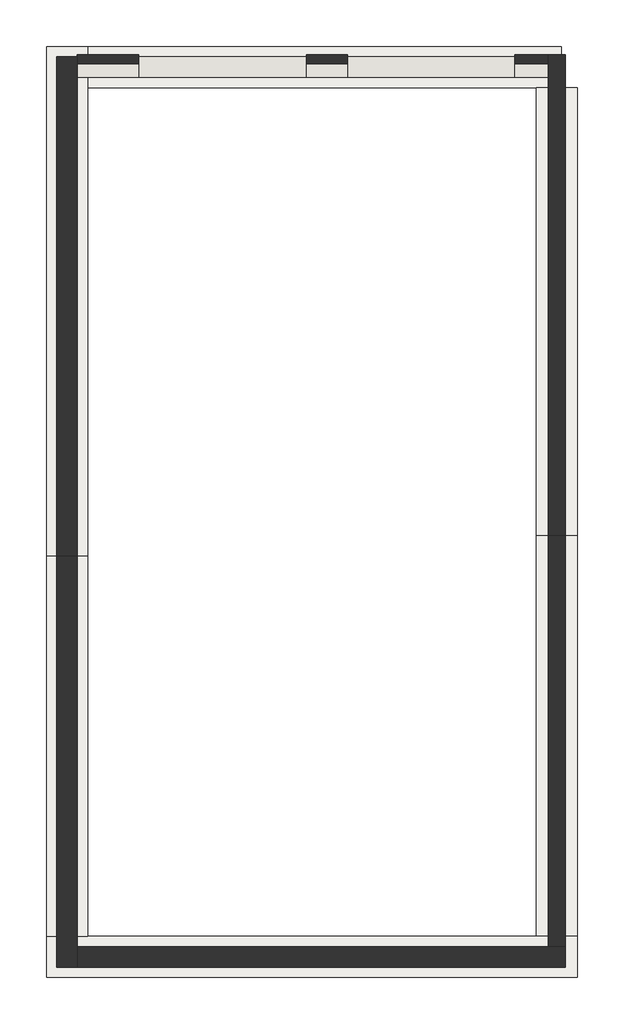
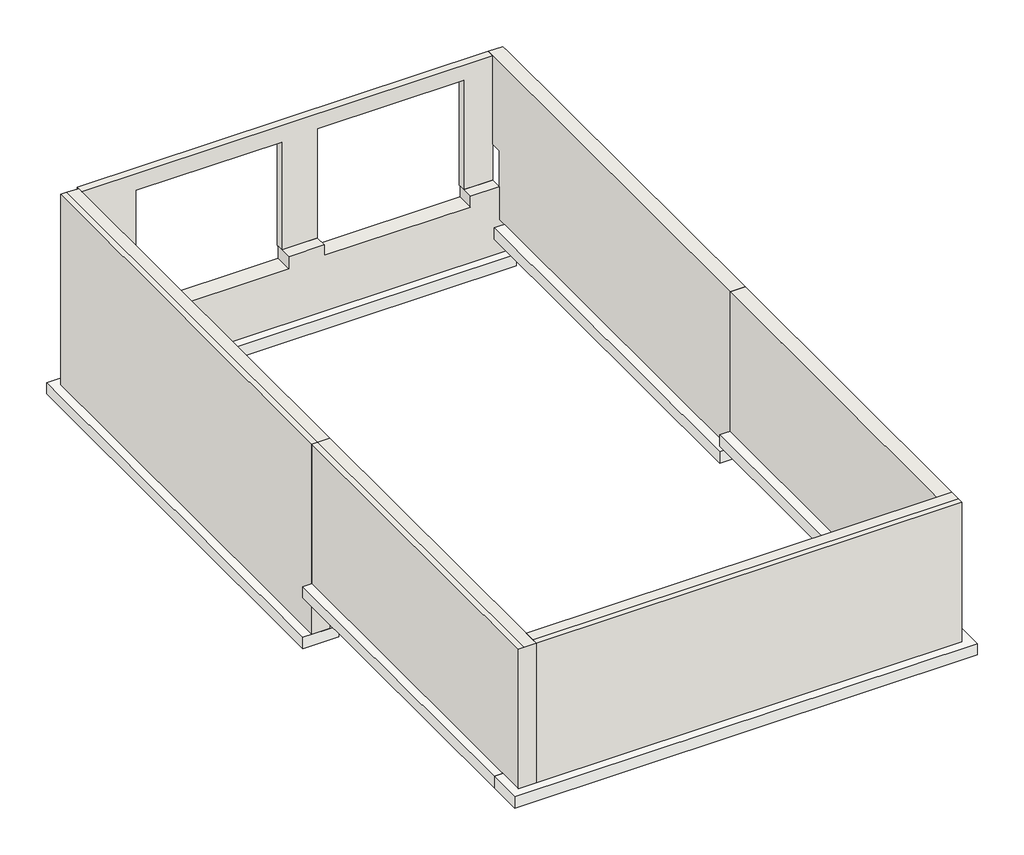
# One storey: 7 walls, 6 footings.
"""IFC4 building model written with IfcOpenShell, lengths in millimetres."""

import ifcopenshell
import ifcopenshell.guid

model = None  # the IFC model being written
_history = None  # IfcOwnerHistory: only IFC2X3 demands one
_inside = {}  # id of a spatial element -> (the spatial element, [elements in it])
_under = {}  # id of a project, library or spatial element -> (it, [spatial elements below it])
_declared = {}  # id of a project -> (the project, [libraries it declares])
_typed = {}  # id of a type object -> (the type object, [elements of that type])
_made_of = {}  # id of a material, layer set ... -> (it, [elements and type objects made of it])


def new_model(schema):
    """Start an empty IFC model of exactly this schema.

    Asked for "IFC4X3", IfcOpenShell would pick the latest addendum, in which some entities
    have other attributes; the version numbers below select the first issue.
    IFC2X3 requires an IfcOwnerHistory on every rooted entity: one is made here for all.
    """
    global model, _history
    if schema == "IFC4X3":
        model = ifcopenshell.file(schema_version=(4, 3, 0, 0))
    else:
        model = ifcopenshell.file(schema=schema)
    _inside.clear()
    _under.clear()
    _declared.clear()
    _typed.clear()
    _made_of.clear()
    _history = None
    if model.schema == "IFC2X3":
        org = make("IfcOrganization", Name="unknown")
        user = make(
            "IfcPersonAndOrganization",
            ThePerson=make("IfcPerson", FamilyName="unknown"),
            TheOrganization=org,
        )
        app = make(
            "IfcApplication",
            ApplicationDeveloper=org,
            Version="unknown",
            ApplicationFullName="unknown",
            ApplicationIdentifier="unknown",
        )
        _history = make(
            "IfcOwnerHistory",
            OwningUser=user,
            OwningApplication=app,
            ChangeAction="ADDED",
            CreationDate=0,
        )
    return model


def make(cls, **values):
    """One entity of the class cls with the attributes given. An attribute that is None is left unset."""
    return model.create_entity(
        cls, **{name: value for name, value in values.items() if value is not None}
    )


def rooted(cls, **values):
    """An entity with a GlobalId (a new one), such as an element, a storey or a relation."""
    return make(cls, GlobalId=ifcopenshell.guid.new(), OwnerHistory=_history, **values)


def si_unit(unit_type, name, prefix=None):
    """IfcSIUnit, for example si_unit("LENGTHUNIT", "METRE", prefix="MILLI")."""
    return make("IfcSIUnit", UnitType=unit_type, Prefix=prefix, Name=name)


def assignment(units):
    """IfcUnitAssignment: the units of a project."""
    return None if units is None else make("IfcUnitAssignment", Units=units)


def point(xyz):
    """IfcCartesianPoint."""
    return None if xyz is None else make("IfcCartesianPoint", Coordinates=xyz)


def direction(xyz):
    """IfcDirection."""
    return None if xyz is None else make("IfcDirection", DirectionRatios=xyz)


def frame(location, z_axis=None, x_axis=None):
    """IfcAxis2Placement3D, a coordinate frame: its origin and axes. An axis left out is left unset."""
    return make(
        "IfcAxis2Placement3D",
        Location=point(location),
        Axis=direction(z_axis),
        RefDirection=direction(x_axis),
    )


def origin():
    """The frame at (0, 0, 0) with its axes left unset."""
    return frame((0.0, 0.0, 0.0))


def place(relative_to, where):
    """IfcLocalPlacement: puts the frame where relative to a parent placement (None: the world)."""
    return make(
        "IfcLocalPlacement", PlacementRelTo=relative_to, RelativePlacement=where
    )


def context(
    kind, dimensions, precision=None, world=None, true_north=None, identifier=None
):
    """IfcGeometricRepresentationContext, for example the 3D "Model" context."""
    return make(
        "IfcGeometricRepresentationContext",
        ContextIdentifier=identifier,
        ContextType=kind,
        CoordinateSpaceDimension=dimensions,
        Precision=precision,
        WorldCoordinateSystem=world,
        TrueNorth=true_north,
    )


def project(units=None, contexts=None):
    """IfcProject with its units and contexts."""
    return rooted(
        "IfcProject",
        Name="project",
        RepresentationContexts=contexts,
        UnitsInContext=assignment(units),
    )


def spatial(cls, under=None, at=None, **own):
    """A site, building, storey or space (cls), placed at a placement, below another one or the project."""
    s = rooted(cls, ObjectPlacement=at, **own)
    if under is not None:
        _under.setdefault(under.id(), (under, []))[1].append(s)
    return s


def polyline(points):
    """IfcPolyline through the points."""
    return make("IfcPolyline", Points=[point(p) for p in points])


def outline(outer, holes=None, kind="AREA"):
    """IfcArbitraryClosedProfileDef: a profile drawn as a closed curve; with holes, ...WithVoids."""
    if holes is None:
        return make("IfcArbitraryClosedProfileDef", ProfileType=kind, OuterCurve=outer)
    return make(
        "IfcArbitraryProfileDefWithVoids",
        ProfileType=kind,
        OuterCurve=outer,
        InnerCurves=holes,
    )


def extrude(swept, where, along, depth):
    """IfcExtrudedAreaSolid: the profile swept, set in the frame where, extruded along a direction by depth."""
    return make(
        "IfcExtrudedAreaSolid",
        SweptArea=swept,
        Position=where,
        ExtrudedDirection=direction(along),
        Depth=depth,
    )


def faces_of(points, faces, orient=None, outer=None):
    """IfcFace entities. A face is a list of loops; a loop is a list of indices into points, from 0.

    orient and outer hold one flag for each loop. By default every Orientation is true, the
    first loop of a face is its IfcFaceOuterBound and the others are IfcFaceBound.
    """
    made = []
    for i, loops in enumerate(faces):
        bounds = []
        for j, loop in enumerate(loops):
            is_outer = j == 0 if outer is None else outer[i][j]
            bounds.append(
                make(
                    "IfcFaceOuterBound" if is_outer else "IfcFaceBound",
                    Bound=make("IfcPolyLoop", Polygon=[points[k] for k in loop]),
                    Orientation=True if orient is None else orient[i][j],
                )
            )
        made.append(make("IfcFace", Bounds=bounds))
    return made


def faceted_brep(points, faces, orient=None, outer=None, voids=None):
    """IfcFacetedBrep: a solid bounded by flat faces; with voids (closed shells), ...WithVoids."""
    shared = [point(p) for p in points]
    hull = make("IfcClosedShell", CfsFaces=faces_of(shared, faces, orient, outer))
    if voids is None:
        return make("IfcFacetedBrep", Outer=hull)
    return make(
        "IfcFacetedBrepWithVoids",
        Outer=hull,
        Voids=[
            make(cls, CfsFaces=faces_of(shared, fs, o, b)) for cls, fs, o, b in voids
        ],
    )


def shape(context_of_items, identifier, shape_type, items):
    """IfcShapeRepresentation: the items that make up one representation, for example the "Body"."""
    return make(
        "IfcShapeRepresentation",
        ContextOfItems=context_of_items,
        RepresentationIdentifier=identifier,
        RepresentationType=shape_type,
        Items=items,
    )


def made_of(thing, what):
    """Note that an element or type object is made of a material, layer set ...; save() writes the relation."""
    if what is not None:
        _made_of.setdefault(what.id(), (what, []))[1].append(thing)
    return thing


def element(
    cls,
    number,
    at=None,
    inside=None,
    cuts=None,
    type_object=None,
    material=None,
    context=None,
    identifier="Body",
    shape_type=None,
    held_by="IfcProductDefinitionShape",
    body=None,
    shapes=None,
    **own,
):
    """One element of the class cls, such as IfcWall. Its Tag is "e" and its number.

    at: its placement. inside: the storey or other place that contains it. cuts: it is an
    opening in that element (IfcRelVoidsElement). A single representation is given by context,
    identifier, shape_type and body (its items); several are given by shapes. held_by: the class
    of the entity that holds the representations. save() writes the other relations.
    """
    e = rooted(cls, Tag="e%d" % number, ObjectPlacement=at, **own)
    if body is not None:
        shapes = [shape(context, identifier, shape_type, body)]
    if shapes is not None:
        e.Representation = make(held_by, Representations=shapes)
    if inside is not None:
        _inside.setdefault(inside.id(), (inside, []))[1].append(e)
    if cuts is not None:
        rooted(
            "IfcRelVoidsElement", RelatingBuildingElement=cuts, RelatedOpeningElement=e
        )
    if type_object is not None:
        _typed.setdefault(type_object.id(), (type_object, []))[1].append(e)
    return made_of(e, material)


def aggregate(whole, parts):
    """IfcRelAggregates: a whole, such as a stair, and the parts it consists of."""
    return rooted("IfcRelAggregates", RelatingObject=whole, RelatedObjects=parts)


def save(model, path):
    """Write the relations noted so far, then the file.

    IfcRelAggregates (storeys below a building ...), IfcRelContainedInSpatialStructure (elements
    in a storey), IfcRelDefinesByType, IfcRelAssociatesMaterial and IfcRelDeclares: one each for
    every whole, place, type object, material and project.
    """
    for whole, parts in _under.values():
        aggregate(whole, parts)
    for where, things in _inside.values():
        rooted(
            "IfcRelContainedInSpatialStructure",
            RelatedElements=things,
            RelatingStructure=where,
        )
    for kind, things in _typed.values():
        rooted("IfcRelDefinesByType", RelatedObjects=things, RelatingType=kind)
    for what, things in _made_of.values():
        rooted("IfcRelAssociatesMaterial", RelatedObjects=things, RelatingMaterial=what)
    for by, libraries in _declared.values():
        rooted("IfcRelDeclares", RelatingContext=by, RelatedDefinitions=libraries)
    model.write(path)


model = new_model("IFC4")

# Units and contexts
model_context = context("Model", 3, world=origin())
ifc_project = project(units=[si_unit("LENGTHUNIT", "METRE", prefix="MILLI")], contexts=[model_context])

# Site, building, storey
site = spatial("IfcSite", under=ifc_project)
building = spatial("IfcBuilding", under=site)
storey = spatial("IfcBuildingStorey", under=building, Name="A - T.O. Footing", Elevation=-2876.55)

# Footings
placement = place(None, origin())
element("IfcFooting", 1, ObjectType="Footing - 24\" x 8\"", at=placement, inside=storey, context=model_context, shape_type="Brep", body=[
    faceted_brep([(-11056.4629486, -1258.5289462, -3790.95), (-11666.0629486, -1258.5289462, -3790.95), (-11666.0629486, -1258.5289462, -3994.15), (-11056.4629486, -1258.5289462, -3994.15), (-11666.0629486, 6310.6710538, -3790.95), (-11056.4629486, 5701.0710538, -3790.95), (-11056.4629486, 6310.6710538, -3790.95), (-11056.4629486, 6310.6710538, -3994.15), (-11056.4629486, 5701.0710538, -3994.15), (-11666.0629486, 6310.6710538, -3994.15)], [[[0, 1, 2, 3]], [[4, 1, 0, 5, 6]], [[7, 6, 5, 0, 3, 8]], [[9, 7, 8, 3, 2]], [[4, 9, 2, 1]], [[4, 6, 7, 9]]]),
])
element("IfcFooting", 2, ObjectType="Footing - 24\" x 8\"", at=placement, inside=storey, context=model_context, shape_type="Brep", body=[
    faceted_brep([(-11666.0629486, -7506.9289462, -2876.55), (-3779.3629486, -7506.9289462, -2876.55), (-3779.3629486, -6897.3289462, -2876.55), (-4388.9629486, -6897.3289462, -2876.55), (-11056.4629486, -6897.3289462, -2876.55), (-11666.0629486, -6897.3289462, -2876.55), (-11666.0629486, -6897.3289462, -3079.75), (-3779.3629486, -6897.3289462, -3079.75), (-4388.9629486, -6897.3289462, -3079.75), (-11056.4629486, -6897.3289462, -3079.75), (-11666.0629486, -7506.9289462, -3079.75), (-3779.3629486, -7506.9289462, -3079.75)], [[[0, 1, 2, 3, 4, 5]], [[6, 5, 4, 3, 2, 7, 8, 9]], [[10, 6, 9, 8, 7, 11]], [[0, 10, 11, 1]], [[0, 5, 6, 10]], [[2, 1, 11, 7]]]),
])
element("IfcFooting", 3, ObjectType="Footing - 24\" x 8\"", at=placement, inside=storey, context=model_context, shape_type="SweptSolid", body=[
    extrude(outline(polyline([(-4388.9629486, -953.7289462), (-3779.3629486, -953.7289462), (-3779.3629486, -6897.3289462), (-4388.9629486, -6897.3289462), (-4388.9629486, -953.7289462)])), frame((0.0, 0.0, -3079.75), z_axis=(0.0, 0.0, 1.0), x_axis=(1.0, 0.0, 0.0)), (0.0, 0.0, 1.0), 203.2),
])
element("IfcFooting", 4, ObjectType="Footing - 24\" x 8\"", at=placement, inside=storey, context=model_context, shape_type="SweptSolid", body=[
    extrude(outline(polyline([(-4017.4879486, 6310.6710538), (-4017.4879486, 5701.0710538), (-11056.4629486, 5701.0710538), (-11056.4629486, 6310.6710538), (-4017.4879486, 6310.6710538)])), frame((0.0, 0.0, -3994.15), z_axis=(0.0, 0.0, 1.0), x_axis=(1.0, 0.0, 0.0)), (0.0, 0.0, 1.0), 203.2),
])
element("IfcFooting", 5, ObjectType="Footing - 24\" x 8\"", at=placement, inside=storey, context=model_context, shape_type="SweptSolid", body=[
    extrude(outline(polyline([(-3779.3629486, -953.7289462), (-4388.9629486, -953.7289462), (-4388.9629486, 5701.0710538), (-3779.3629486, 5701.0710538), (-3779.3629486, -953.7289462)])), frame((0.0, 0.0, -3384.55), z_axis=(0.0, 0.0, 1.0), x_axis=(1.0, 0.0, 0.0)), (0.0, 0.0, 1.0), 203.2),
])
element("IfcFooting", 6, ObjectType="Footing - 24\" x 8\"", at=placement, inside=storey, context=model_context, shape_type="SweptSolid", body=[
    extrude(outline(polyline([(-11666.0629486, -1258.5289462), (-11056.4629486, -1258.5289462), (-11056.4629486, -6897.3289462), (-11666.0629486, -6897.3289462), (-11666.0629486, -1258.5289462)])), frame((0.0, 0.0, -3079.75), z_axis=(0.0, 0.0, 1.0), x_axis=(1.0, 0.0, 0.0)), (0.0, 0.0, 1.0), 203.2),
])

# Walls
element("IfcWall", 7, ObjectType="Exterior - Wood Siding on Wood Stud", at=placement, inside=storey, context=model_context, shape_type="Brep", body=[
    faceted_brep([(-11208.8629486, 6190.0210538, -361.95), (-4211.1629486, 6190.0210538, -361.95), (-4211.1629486, 6190.0210538, -1949.45), (-4211.1629486, 6190.0210538, -2597.15), (-4706.4629486, 6190.0210538, -2597.15), (-4706.4629486, 6190.0210538, -628.65), (-7195.6629486, 6190.0210538, -628.65), (-7195.6629486, 6190.0210538, -2597.15), (-7805.2629486, 6190.0210538, -2597.15), (-7805.2629486, 6190.0210538, -654.05), (-10294.4629486, 6190.0210538, -654.05), (-10294.4629486, 6190.0210538, -2597.15), (-11208.8629486, 6190.0210538, -2597.15), (-4211.1629486, 6056.6710538, -361.95), (-11208.8629486, 6056.6710538, -361.95), (-11208.8629486, 6056.6710538, -2597.15), (-10294.4629486, 6056.6710538, -2597.15), (-10294.4629486, 6056.6710538, -654.05), (-7805.2629486, 6056.6710538, -654.05), (-7805.2629486, 6056.6710538, -2597.15), (-7195.6629486, 6056.6710538, -2597.15), (-7195.6629486, 6056.6710538, -628.65), (-4706.4629486, 6056.6710538, -628.65), (-4706.4629486, 6056.6710538, -2597.15), (-4211.1629486, 6056.6710538, -2597.15), (-11208.8629486, 6158.2710538, -361.95), (-4211.1629486, 6170.9710538, -2597.15), (-4211.1629486, 6158.2710538, -2597.15), (-4706.4629486, 6158.2710538, -2597.15), (-4706.4629486, 6170.9710538, -2597.15), (-11208.8629486, 6158.2710538, -2597.15), (-11208.8629486, 6170.9710538, -2597.15), (-10294.4629486, 6170.9710538, -2597.15), (-10294.4629486, 6158.2710538, -2597.15), (-7805.2629486, 6158.2710538, -2597.15), (-7805.2629486, 6170.9710538, -2597.15), (-7195.6629486, 6170.9710538, -2597.15), (-7195.6629486, 6158.2710538, -2597.15)], [[[0, 1, 2, 3, 4, 5, 6, 7, 8, 9, 10, 11, 12]], [[13, 14, 15, 16, 17, 18, 19, 20, 21, 22, 23, 24]], [[1, 0, 25, 14, 13]], [[26, 27, 24, 23, 28, 29]], [[15, 30, 31, 32, 33, 16]], [[19, 34, 35, 36, 37, 20]], [[3, 26, 29, 4]], [[31, 12, 11, 32]], [[35, 8, 7, 36]], [[1, 13, 24, 27, 26, 3, 2]], [[14, 25, 0, 12, 31, 30, 15]], [[18, 9, 8, 35, 34, 19]], [[9, 18, 17, 10]], [[10, 17, 16, 33, 32, 11]], [[22, 5, 4, 29, 28, 23]], [[5, 22, 21, 6]], [[6, 21, 20, 37, 36, 7]]]),
])
element("IfcWall", 8, ObjectType="Foundation - 10\" Concrete", at=placement, inside=storey, context=model_context, shape_type="SweptSolid", body=[
    extrude(outline(polyline([(-3957.1629486, -953.7289462), (-3957.1629486, -7049.7289462), (-4211.1629486, -7049.7289462), (-4211.1629486, -953.7289462), (-3957.1629486, -953.7289462)])), frame((0.0, 0.0, -2876.55), z_axis=(0.0, 0.0, 1.0), x_axis=(1.0, 0.0, 0.0)), (0.0, 0.0, 1.0), 2514.6),
])
element("IfcWall", 9, ObjectType="Foundation - 10\" Concrete", at=placement, inside=storey, context=model_context, shape_type="Brep", body=[
    faceted_brep([(-3957.1629486, -953.7289462, -3181.35), (-3957.1629486, 5853.4710538, -3181.35), (-3957.1629486, 5853.4710538, -1949.45), (-3957.1629486, 6190.0210538, -1949.45), (-3957.1629486, 6190.0210538, -1948.3386216), (-3957.1629486, 6190.0210538, -361.95), (-3957.1629486, 6056.6710538, -361.95), (-3957.1629486, -953.7289462, -361.95), (-3957.1629486, -953.7289462, -2876.55), (-4211.1629486, -953.7289462, -3181.35), (-4211.1629486, -953.7289462, -2876.55), (-4211.1629486, -953.7289462, -361.95), (-4211.1629486, 6056.6710538, -361.95), (-4211.1629486, 6190.0210538, -361.95), (-4211.1629486, 6190.0210538, -1949.45), (-4211.1629486, 6158.2710538, -1949.45), (-4211.1629486, 5853.4710538, -1949.45), (-4211.1629486, 5853.4710538, -3181.35)], [[[0, 1, 2, 3, 4, 5, 6, 7, 8]], [[9, 10, 11, 12, 13, 14, 15, 16, 17]], [[1, 0, 9, 17]], [[7, 6, 5, 13, 12, 11]], [[0, 8, 7, 11, 10, 9]], [[14, 3, 2, 16, 15]], [[1, 17, 16, 2]], [[3, 14, 13, 5, 4]]]),
])
element("IfcWall", 10, ObjectType="Foundation - 12\" Concrete", at=placement, inside=storey, context=model_context, shape_type="Brep", body=[
    faceted_brep([(-11513.6629486, 6158.2710538, -3790.95), (-11513.6629486, -1258.5289462, -3790.95), (-11513.6629486, -1258.5289462, -2876.55), (-11513.6629486, -1258.5289462, -361.95), (-11513.6629486, 6158.2710538, -361.95), (-11208.8629486, 6158.2710538, -3790.95), (-11208.8629486, 6158.2710538, -2597.15), (-11208.8629486, 6158.2710538, -361.95), (-11208.8629486, 6056.6710538, -361.95), (-11208.8629486, -1258.5289462, -361.95), (-11208.8629486, -1258.5289462, -2876.55), (-11208.8629486, -1258.5289462, -3790.95), (-11208.8629486, 5853.4710538, -3790.95), (-11412.0629486, -1258.5289462, -361.95), (-11412.0629486, 6158.2710538, -361.95)], [[[0, 1, 2, 3, 4]], [[5, 6, 7, 8, 9, 10, 11, 12]], [[1, 0, 5, 12, 11]], [[3, 2, 1, 11, 10, 9, 13]], [[13, 9, 8, 7, 14]], [[4, 3, 13, 14]], [[0, 4, 14, 7, 6, 5]]]),
])
element("IfcWall", 11, ObjectType="Foundation - 12\" Concrete", at=placement, inside=storey, context=model_context, shape_type="Brep", body=[
    faceted_brep([(-11208.8629486, -7354.5289462, -2876.55), (-3957.1629486, -7354.5289462, -2876.55), (-3957.1629486, -7354.5289462, -2266.95), (-3957.1629486, -7354.5289462, -361.95), (-4084.1629486, -7354.5289462, -361.95), (-11208.8629486, -7354.5289462, -361.95), (-11208.8629486, -7049.7289462, -2876.55), (-11208.8629486, -7049.7289462, -361.95), (-4211.1629486, -7049.7289462, -361.95), (-4084.1629486, -7049.7289462, -361.95), (-3957.1629486, -7049.7289462, -361.95), (-3957.1629486, -7049.7289462, -2266.95), (-3957.1629486, -7049.7289462, -2876.55), (-4211.1629486, -7049.7289462, -2876.55), (-3957.1629486, -7252.9289462, -361.95), (-11208.8629486, -7252.9289462, -361.95)], [[[0, 1, 2, 3, 4, 5]], [[6, 7, 8, 9, 10, 11, 12, 13]], [[1, 0, 6, 13, 12]], [[14, 10, 9, 8, 7, 15]], [[5, 4, 3, 14, 15]], [[0, 5, 15, 7, 6]], [[1, 12, 11, 10, 14, 3, 2]]]),
])
element("IfcWall", 12, ObjectType="Foundation - 12\" Concrete", at=placement, inside=storey, context=model_context, shape_type="Brep", body=[
    faceted_brep([(-4017.4879486, 6158.2710538, -3790.95), (-11208.8629486, 6158.2710538, -3790.95), (-11208.8629486, 6158.2710538, -2597.15), (-10294.4629486, 6158.2710538, -2597.15), (-10294.4629486, 6158.2710538, -2813.05), (-7805.2629486, 6158.2710538, -2813.05), (-7805.2629486, 6158.2710538, -2597.15), (-7195.6629486, 6158.2710538, -2597.15), (-7195.6629486, 6158.2710538, -2787.65), (-4706.4629486, 6158.2710538, -2787.65), (-4706.4629486, 6158.2710538, -2597.15), (-4211.1629486, 6158.2710538, -2597.15), (-4211.1629486, 6158.2710538, -3181.35), (-4017.4879486, 6158.2710538, -3181.35), (-11208.8629486, 5853.4710538, -3790.95), (-4017.4879486, 5853.4710538, -3790.95), (-4017.4879486, 5853.4710538, -3181.35), (-4211.1629486, 5853.4710538, -3181.35), (-4211.1629486, 5853.4710538, -2597.15), (-4706.4629486, 5853.4710538, -2597.15), (-4706.4629486, 5853.4710538, -2787.65), (-7195.6629486, 5853.4710538, -2787.65), (-7195.6629486, 5853.4710538, -2597.15), (-7805.2629486, 5853.4710538, -2597.15), (-7805.2629486, 5853.4710538, -2813.05), (-10294.4629486, 5853.4710538, -2813.05), (-10294.4629486, 5853.4710538, -2597.15), (-11208.8629486, 5853.4710538, -2597.15), (-11208.8629486, 6056.6710538, -2597.15), (-10294.4629486, 6056.6710538, -2597.15), (-7805.2629486, 6056.6710538, -2597.15), (-7195.6629486, 6056.6710538, -2597.15), (-4706.4629486, 6056.6710538, -2597.15), (-4211.1629486, 6056.6710538, -2597.15)], [[[0, 1, 2, 3, 4, 5, 6, 7, 8, 9, 10, 11, 12, 13]], [[14, 15, 16, 17, 18, 19, 20, 21, 22, 23, 24, 25, 26, 27]], [[1, 0, 15, 14]], [[15, 0, 13, 16]], [[28, 27, 26, 29]], [[30, 23, 22, 31]], [[32, 19, 18, 33]], [[2, 28, 29, 3]], [[10, 32, 33, 11]], [[6, 30, 31, 7]], [[2, 1, 14, 27, 28]], [[10, 9, 20, 19, 32]], [[8, 7, 31, 22, 21]], [[6, 5, 24, 23, 30]], [[4, 3, 29, 26, 25]], [[20, 9, 8, 21]], [[24, 5, 4, 25]], [[13, 12, 17, 16]], [[17, 12, 11, 33, 18]]]),
])
element("IfcWall", 13, ObjectType="Foundation - 12\" Concrete", at=placement, inside=storey, context=model_context, shape_type="Brep", body=[
    faceted_brep([(-11513.6629486, -1258.5289462, -2876.55), (-11513.6629486, -7354.5289462, -2876.55), (-11513.6629486, -7354.5289462, -361.95), (-11513.6629486, -1258.5289462, -361.95), (-11208.8629486, -1258.5289462, -2876.55), (-11208.8629486, -1258.5289462, -361.95), (-11208.8629486, -7049.7289462, -361.95), (-11208.8629486, -7354.5289462, -361.95), (-11208.8629486, -7354.5289462, -2876.55), (-11208.8629486, -7049.7289462, -2876.55), (-11412.0629486, -1258.5289462, -361.95), (-11412.0629486, -7354.5289462, -361.95)], [[[0, 1, 2, 3]], [[4, 5, 6, 7, 8, 9]], [[1, 0, 4, 9, 8]], [[0, 3, 10, 5, 4]], [[11, 7, 6, 5, 10]], [[3, 2, 11, 10]], [[2, 1, 8, 7, 11]]]),
])

save(model, "model.ifc")
